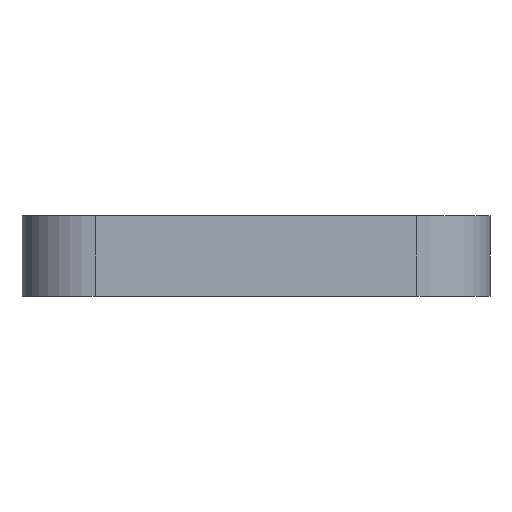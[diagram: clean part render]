
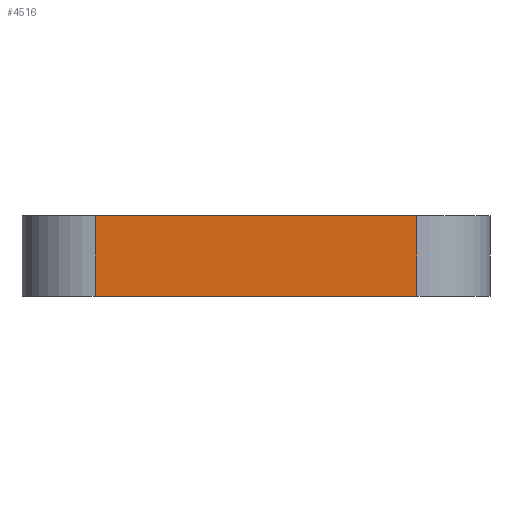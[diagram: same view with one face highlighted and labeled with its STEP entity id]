
A CAD part, left-side view. The second image highlights one B-rep face of the part: STEP entity #4516.
In plain terms, the highlighted planar face has unit normal (-1, 0, 0).
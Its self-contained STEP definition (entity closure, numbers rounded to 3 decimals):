
#228=PLANE('',#4843);
#437=FACE_OUTER_BOUND('',#720,.T.);
#720=EDGE_LOOP('',(#3967,#3968,#3969,#3970));
#1144=LINE('',#6952,#1684);
#1238=LINE('',#7188,#1778);
#1239=LINE('',#7192,#1779);
#1240=LINE('',#7193,#1780);
#1684=VECTOR('',#5618,10.);
#1778=VECTOR('',#5860,10.);
#1779=VECTOR('',#5865,10.);
#1780=VECTOR('',#5866,10.);
#2261=VERTEX_POINT('',#6949);
#2262=VERTEX_POINT('',#6951);
#2330=VERTEX_POINT('',#7187);
#2331=VERTEX_POINT('',#7191);
#2789=EDGE_CURVE('',#2261,#2262,#1144,.F.);
#2909=EDGE_CURVE('',#2330,#2261,#1238,.T.);
#2911=EDGE_CURVE('',#2262,#2331,#1239,.T.);
#2912=EDGE_CURVE('',#2331,#2330,#1240,.F.);
#3967=ORIENTED_EDGE('',*,*,#2911,.F.);
#3968=ORIENTED_EDGE('',*,*,#2789,.F.);
#3969=ORIENTED_EDGE('',*,*,#2909,.F.);
#3970=ORIENTED_EDGE('',*,*,#2912,.F.);
#4516=ADVANCED_FACE('',(#437),#228,.T.);
#4843=AXIS2_PLACEMENT_3D('',#7190,#5863,#5864);
#5618=DIRECTION('',(0.,1.,0.));
#5860=DIRECTION('',(0.,0.,1.));
#5863=DIRECTION('center_axis',(-1.,0.,0.));
#5864=DIRECTION('ref_axis',(0.,-1.,0.));
#5865=DIRECTION('',(0.,0.,-1.));
#5866=DIRECTION('',(0.,-1.,0.));
#6949=CARTESIAN_POINT('',(-88.,13.,10.));
#6951=CARTESIAN_POINT('',(-88.,-75.,10.));
#6952=CARTESIAN_POINT('',(-88.,46.5,10.));
#7187=CARTESIAN_POINT('',(-88.,13.,-12.));
#7188=CARTESIAN_POINT('',(-88.,13.,0.));
#7190=CARTESIAN_POINT('Origin',(-88.,93.,0.));
#7191=CARTESIAN_POINT('',(-88.,-75.,-12.));
#7192=CARTESIAN_POINT('',(-88.,-75.,0.));
#7193=CARTESIAN_POINT('',(-88.,32.75,-12.));
